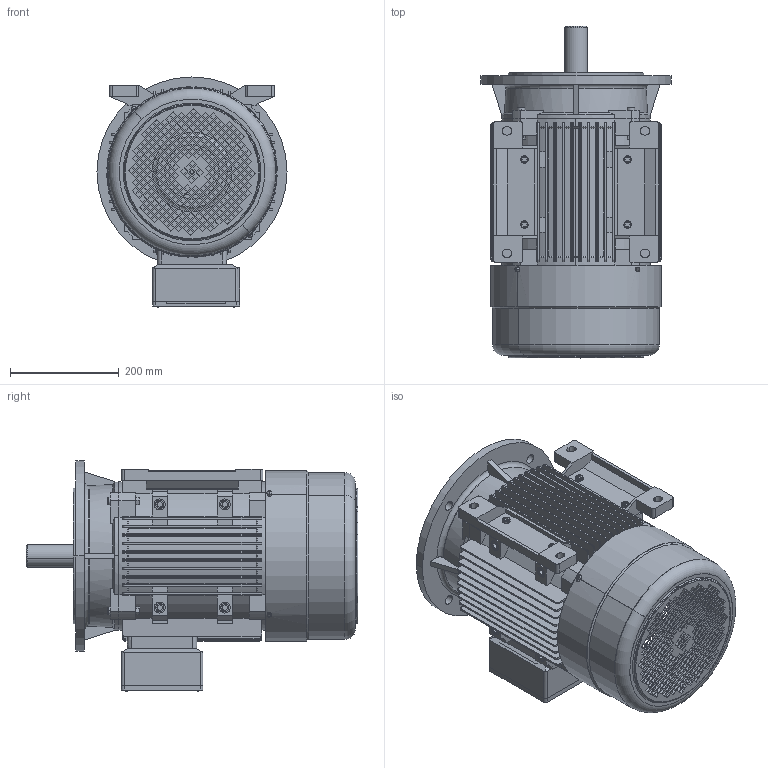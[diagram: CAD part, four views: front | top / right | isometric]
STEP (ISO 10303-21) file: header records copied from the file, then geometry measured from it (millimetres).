
FILE_DESCRIPTION (( 'STEP AP203' ), '1' );
FILE_NAME ('160M-B35.STEP', '2023-02-21T10:11:55', ( '' ), ( '' ), 'SwSTEP 2.0', 'SolidWorks 2018', '' );
FILE_SCHEMA (( 'CONFIG_CONTROL_DESIGN' ));
Length unit declared in the file: millimetre
Products named in the file (12): 160瑞欶; 160B5裔; 160菁褐M; 160M-B35; 160諉盄碟釱; 160 蹟邡; 160粣芛; 160諉盄碟裔; 160M; 112-蹟隊; 160 蹟譫; 160 蚐猾
Assembly tree (27 placements, depth 2):
  160M-B35
    160M
    160B5裔
    160 蹟邡  x8
    160 蹟譫  x4
    160粣芛
    160 蚐猾
    160諉盄碟釱
    160諉盄碟裔
    112-蹟隊  x6
    160菁褐M  x2
    160瑞欶
Bounding box: 350 x 611 x 423.73 mm (x, y, z)
Volume: 6314403.5 mm3; surface area: 2181071.9 mm2
Topology: 27 solids, 27 shells, 2958 faces, 8313 edges, 5486 vertices
Faces by surface type: plane 2245, cylinder 552, cone 105, torus 44, sphere 12
Entity records: 89241 total; most frequent: CARTESIAN_POINT 17262, ORIENTED_EDGE 15044, DIRECTION 13401, EDGE_CURVE 7522, LINE 6131, VECTOR 6131, VERTEX_POINT 4986, AXIS2_PLACEMENT_3D 3635
